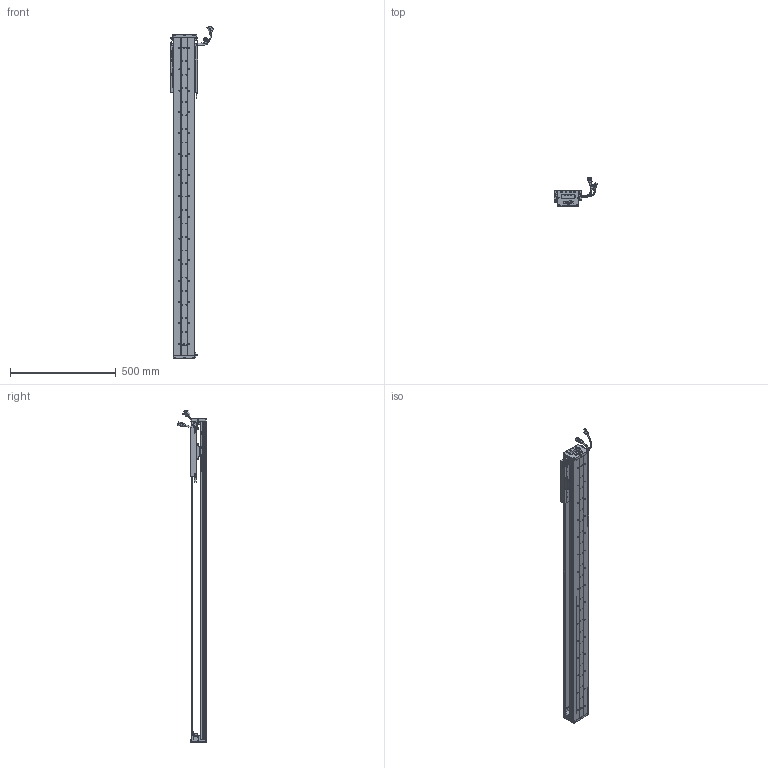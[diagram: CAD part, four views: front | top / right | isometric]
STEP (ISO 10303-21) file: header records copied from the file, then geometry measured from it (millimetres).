
FILE_DESCRIPTION (( 'STEP AP203' ), '1' );
FILE_NAME ('Z3-RY100D-1-L500-B-K.SLDASM_1200.step', '2021-05-17T02:50:33', ( '盈信电脑' ), ( '东莞市道滘镇水果街19号' ), 'SwSTEP 2.0', 'SolidWorks 2016', '' );
FILE_SCHEMA (( 'CONFIG_CONTROL_DESIGN' ));
Length unit declared in the file: millimetre
Products named in the file (36): 080黍杅芛假蚾釱21遴; HOLDER0; 100-Z-臏賑輸盄裔(21遴); SCALE-Part-2; Z3-RY100D-500-倰第菁釱_1200; Z-100詩湍傷裔啣; SEAL; COVER; Z-RY100D詩湍奻揤裔; 140雄赽晤鎢ん堤盄; SCALE; Z3-RY100D-1-L500-B-K.SLDASM_1200; 覜茼ん672; SCREW-M1.7; SCREW-M1.6-2; LABEL; SCREW-M1.7-1; Z3-RY100-L500詩湍90mm遵_1200; LABEL-Part-1; HARNESS-Part-2; Z-RY100D覜茼んえ; PBU_SHEET; Z-RY100D詩湍狟揤裔; Z3-RY100铝滑块（21款）; SCREW-M1.6-3; 140蚥薯蝶輸; 榋妏寠巭燃_暯_M2_2; PSLH080_PSLF2; SCREW-M1.6; SEAL-Part-1; HARNESS-Part-1; SHIELDPLATE; HARNESS; COVER-Part-1; SCREW-M1.6-1; SCALE-Part-1
Assembly tree (43 placements, depth 4):
  Z3-RY100D-1-L500-B-K.SLDASM_1200
    Z3-RY100D-500-倰第菁釱_1200
    Z3-RY100铝滑块（21款）
    PSLH080_PSLF2
      SCALE
        SCALE-Part-1
        SCALE-Part-2
      HARNESS
        HARNESS-Part-1
        HARNESS-Part-2
      LABEL
        LABEL-Part-1
      COVER
        COVER-Part-1
      SEAL
        SEAL-Part-1
      榋妏寠巭燃_暯_M2_2
      SHIELDPLATE
      SCREW-M1.7
      SCREW-M1.7-1
      PBU_SHEET
      SCREW-M1.6
      SCREW-M1.6-1
      SCREW-M1.6-2
      SCREW-M1.6-3
      HOLDER0
    080黍杅芛假蚾釱21遴
    Z-100詩湍傷裔啣  x2
    140蚥薯蝶輸  x2
    覜茼ん672  x3
    Z-RY100D覜茼んえ  x3
    100-Z-臏賑輸盄裔(21遴)
    140雄赽晤鎢ん堤盄
    Z3-RY100-L500詩湍90mm遵_1200
    Z-RY100D詩湍狟揤裔  x2
    Z-RY100D詩湍奻揤裔  x2
Bounding box: 205.83 x 136.11 x 1570.43 mm (x, y, z)
Volume: 3135584.5 mm3; surface area: 1212046.3 mm2
Topology: 38 solids, 38 shells, 2705 faces, 7183 edges, 4556 vertices
Faces by surface type: cylinder 1218, plane 1139, cone 226, torus 69, bspline 53
Entity records: 74945 total; most frequent: CARTESIAN_POINT 15761, DIRECTION 11937, ORIENTED_EDGE 11246, EDGE_CURVE 5623, AXIS2_PLACEMENT_3D 4420, VERTEX_POINT 3624, LINE 3097, VECTOR 3097
